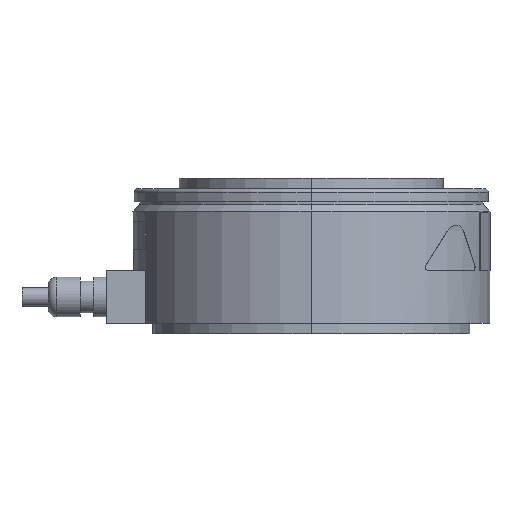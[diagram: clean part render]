
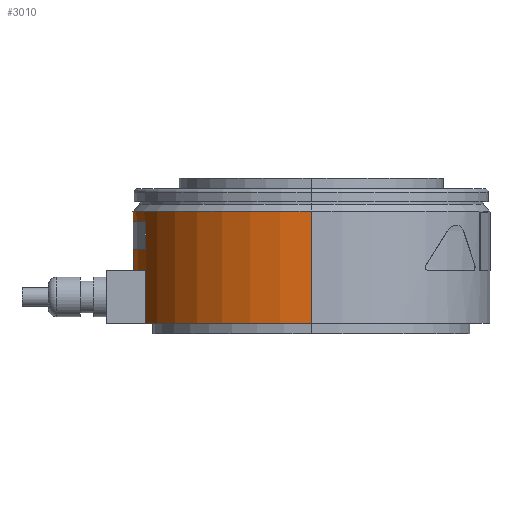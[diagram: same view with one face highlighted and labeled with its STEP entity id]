
A CAD part, left-side view. The second image highlights one B-rep face of the part: STEP entity #3010.
In plain terms, the highlighted cylindrical face has radius 67.5 mm (diameter 135 mm), a partial arc.
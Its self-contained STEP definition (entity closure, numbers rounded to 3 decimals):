
#221 = AXIS2_PLACEMENT_3D ( 'NONE', #2890, #2893, #2892 ) ;
#675 = CARTESIAN_POINT ( 'NONE',  ( 0., 0., 46.5 ) ) ;
#690 = DIRECTION ( 'NONE',  ( 0., 0., -1. ) ) ;
#691 = DIRECTION ( 'NONE',  ( -1., 0., 0. ) ) ;
#849 = CIRCLE ( 'NONE', #1994, 67.5 ) ;
#1433 = AXIS2_PLACEMENT_3D ( 'NONE', #1748, #1749, #1750 ) ;
#1434 = AXIS2_PLACEMENT_3D ( 'NONE', #1767, #1768, #1769 ) ;
#1441 = AXIS2_PLACEMENT_3D ( 'NONE', #1780, #1782, #1783 ) ;
#1442 = AXIS2_PLACEMENT_3D ( 'NONE', #1778, #1786, #1787 ) ;
#1443 = AXIS2_PLACEMENT_3D ( 'NONE', #1797, #1798, #1799 ) ;
#1748 = CARTESIAN_POINT ( 'NONE',  ( 0., 0., 32. ) ) ;
#1749 = DIRECTION ( 'NONE',  ( 0., 0., 1. ) ) ;
#1750 = DIRECTION ( 'NONE',  ( -1., 0., 0. ) ) ;
#1757 = CARTESIAN_POINT ( 'NONE',  ( -25., 62.7, 0. ) ) ;
#1759 = DIRECTION ( 'NONE',  ( 0., 0., 1. ) ) ;
#1767 = CARTESIAN_POINT ( 'NONE',  ( 0., 0., 5. ) ) ;
#1768 = DIRECTION ( 'NONE',  ( 0., 0., 1. ) ) ;
#1769 = DIRECTION ( 'NONE',  ( -1., 0., 0. ) ) ;
#1776 = CARTESIAN_POINT ( 'NONE',  ( -25., 62.7, 0. ) ) ;
#1778 = CARTESIAN_POINT ( 'NONE',  ( 0., 0., 42.5 ) ) ;
#1779 = DIRECTION ( 'NONE',  ( 0., 0., -1. ) ) ;
#1780 = CARTESIAN_POINT ( 'NONE',  ( 0., 0., 24. ) ) ;
#1781 = CARTESIAN_POINT ( 'NONE',  ( 67.5, 0., 0. ) ) ;
#1782 = DIRECTION ( 'NONE',  ( 0., 0., 1. ) ) ;
#1783 = DIRECTION ( 'NONE',  ( -1., 0., 0. ) ) ;
#1784 = CARTESIAN_POINT ( 'NONE',  ( 25., 62.7, 0. ) ) ;
#1785 = DIRECTION ( 'NONE',  ( 0., 0., 1. ) ) ;
#1786 = DIRECTION ( 'NONE',  ( 0., 0., -1. ) ) ;
#1787 = DIRECTION ( 'NONE',  ( 1., 0., 0. ) ) ;
#1788 = CARTESIAN_POINT ( 'NONE',  ( 25., 62.7, 0. ) ) ;
#1789 = DIRECTION ( 'NONE',  ( 0., 0., -1. ) ) ;
#1790 = CARTESIAN_POINT ( 'NONE',  ( -67.5, 0., 0. ) ) ;
#1791 = DIRECTION ( 'NONE',  ( 0., 0., -1. ) ) ;
#1793 = DIRECTION ( 'NONE',  ( 0., 0., -1. ) ) ;
#1797 = CARTESIAN_POINT ( 'NONE',  ( 0., 0., 4. ) ) ;
#1798 = DIRECTION ( 'NONE',  ( 0., 0., -1. ) ) ;
#1799 = DIRECTION ( 'NONE',  ( -1., 0., 0. ) ) ;
#1994 = AXIS2_PLACEMENT_3D ( 'NONE', #675, #690, #691 ) ;
#2047 = VERTEX_POINT ( 'NONE', #6300 ) ;
#2048 = VERTEX_POINT ( 'NONE', #6294 ) ;
#2053 = VERTEX_POINT ( 'NONE', #6305 ) ;
#2054 = VERTEX_POINT ( 'NONE', #6306 ) ;
#2057 = VERTEX_POINT ( 'NONE', #6309 ) ;
#2058 = VERTEX_POINT ( 'NONE', #6310 ) ;
#2060 = VERTEX_POINT ( 'NONE', #6312 ) ;
#2069 = VERTEX_POINT ( 'NONE', #6321 ) ;
#2070 = VERTEX_POINT ( 'NONE', #6322 ) ;
#2071 = VERTEX_POINT ( 'NONE', #6323 ) ;
#2620 = CIRCLE ( 'NONE', #1433, 67.5 ) ;
#2621 = LINE ( 'NONE', #1757, #2624 ) ;
#2624 = VECTOR ( 'NONE', #1759, 1000. ) ;
#2632 = VECTOR ( 'NONE', #1785, 1000. ) ;
#2633 = CIRCLE ( 'NONE', #1434, 67.5 ) ;
#2634 = LINE ( 'NONE', #1776, #2637 ) ;
#2637 = VECTOR ( 'NONE', #1779, 1000. ) ;
#2638 = LINE ( 'NONE', #1784, #2632 ) ;
#2890 = CARTESIAN_POINT ( 'NONE',  ( 0., 0., 0. ) ) ;
#2892 = DIRECTION ( 'NONE',  ( -1., 0., 0. ) ) ;
#2893 = DIRECTION ( 'NONE',  ( 0., 0., -1. ) ) ;
#3010 = ADVANCED_FACE ( 'NONE', ( #4563, #4571, #4573 ), #4567, .T. ) ;
#3878 = EDGE_CURVE ( 'NONE', #2071, #2054, #2620, .T. ) ;
#3882 = EDGE_CURVE ( 'NONE', #2054, #2060, #2621, .T. ) ;
#3886 = EDGE_CURVE ( 'NONE', #2069, #2057, #2633, .T. ) ;
#3890 = EDGE_CURVE ( 'NONE', #2048, #2057, #2634, .T. ) ;
#3891 = EDGE_CURVE ( 'NONE', #2047, #2048, #5451, .T. ) ;
#3892 = EDGE_CURVE ( 'NONE', #2069, #2047, #2638, .T. ) ;
#3893 = EDGE_CURVE ( 'NONE', #2060, #2053, #5453, .T. ) ;
#3894 = EDGE_CURVE ( 'NONE', #2053, #2071, #6701, .T. ) ;
#3895 = EDGE_CURVE ( 'NONE', #4956, #2070, #5454, .T. ) ;
#3896 = EDGE_CURVE ( 'NONE', #4969, #2058, #5452, .T. ) ;
#3898 = EDGE_CURVE ( 'NONE', #2070, #2058, #5459, .T. ) ;
#4376 = CARTESIAN_POINT ( 'NONE',  ( -67.5, 0., 46.5 ) ) ;
#4389 = CARTESIAN_POINT ( 'NONE',  ( 67.5, 0., 46.5 ) ) ;
#4563 = FACE_BOUND ( 'NONE', #5144, .T. ) ;
#4567 = CYLINDRICAL_SURFACE ( 'NONE', #221, 67.5 ) ;
#4571 = FACE_BOUND ( 'NONE', #5132, .T. ) ;
#4573 = FACE_OUTER_BOUND ( 'NONE', #5133, .T. ) ;
#4829 = ORIENTED_EDGE ( 'NONE', *, *, #3895, .F. ) ;
#4830 = ORIENTED_EDGE ( 'NONE', *, *, #3898, .F. ) ;
#4831 = ORIENTED_EDGE ( 'NONE', *, *, #3896, .T. ) ;
#4832 = ORIENTED_EDGE ( 'NONE', *, *, #6803, .T. ) ;
#4833 = ORIENTED_EDGE ( 'NONE', *, *, #3893, .F. ) ;
#4834 = ORIENTED_EDGE ( 'NONE', *, *, #3894, .F. ) ;
#4835 = ORIENTED_EDGE ( 'NONE', *, *, #3878, .F. ) ;
#4836 = ORIENTED_EDGE ( 'NONE', *, *, #3882, .F. ) ;
#4837 = ORIENTED_EDGE ( 'NONE', *, *, #3892, .T. ) ;
#4838 = ORIENTED_EDGE ( 'NONE', *, *, #3886, .F. ) ;
#4839 = ORIENTED_EDGE ( 'NONE', *, *, #3890, .T. ) ;
#4840 = ORIENTED_EDGE ( 'NONE', *, *, #3891, .T. ) ;
#4956 = VERTEX_POINT ( 'NONE', #4376 ) ;
#4969 = VERTEX_POINT ( 'NONE', #4389 ) ;
#5132 = EDGE_LOOP ( 'NONE', ( #4836, #4835, #4834, #4833 ) ) ;
#5133 = EDGE_LOOP ( 'NONE', ( #4832, #4831, #4830, #4829 ) ) ;
#5144 = EDGE_LOOP ( 'NONE', ( #4840, #4839, #4838, #4837 ) ) ;
#5450 = VECTOR ( 'NONE', #1789, 1000. ) ;
#5451 = CIRCLE ( 'NONE', #1441, 67.5 ) ;
#5452 = LINE ( 'NONE', #1781, #5456 ) ;
#5453 = CIRCLE ( 'NONE', #1442, 67.5 ) ;
#5454 = LINE ( 'NONE', #1790, #5455 ) ;
#5455 = VECTOR ( 'NONE', #1791, 1000. ) ;
#5456 = VECTOR ( 'NONE', #1793, 1000. ) ;
#5459 = CIRCLE ( 'NONE', #1443, 67.5 ) ;
#6294 = CARTESIAN_POINT ( 'NONE',  ( -25., 62.7, 24. ) ) ;
#6300 = CARTESIAN_POINT ( 'NONE',  ( 25., 62.7, 24. ) ) ;
#6305 = CARTESIAN_POINT ( 'NONE',  ( 25., 62.7, 42.5 ) ) ;
#6306 = CARTESIAN_POINT ( 'NONE',  ( -25., 62.7, 32. ) ) ;
#6309 = CARTESIAN_POINT ( 'NONE',  ( -25., 62.7, 5. ) ) ;
#6310 = CARTESIAN_POINT ( 'NONE',  ( 67.5, 0., 4. ) ) ;
#6312 = CARTESIAN_POINT ( 'NONE',  ( -25., 62.7, 42.5 ) ) ;
#6321 = CARTESIAN_POINT ( 'NONE',  ( 25., 62.7, 5. ) ) ;
#6322 = CARTESIAN_POINT ( 'NONE',  ( -67.5, 0., 4. ) ) ;
#6323 = CARTESIAN_POINT ( 'NONE',  ( 25., 62.7, 32. ) ) ;
#6701 = LINE ( 'NONE', #1788, #5450 ) ;
#6803 = EDGE_CURVE ( 'NONE', #4956, #4969, #849, .T. ) ;
